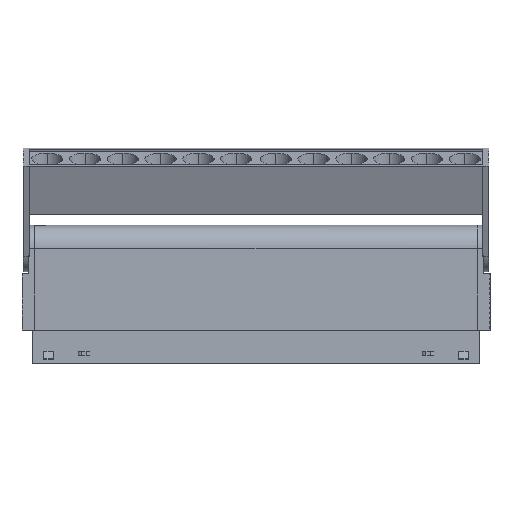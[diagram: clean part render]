
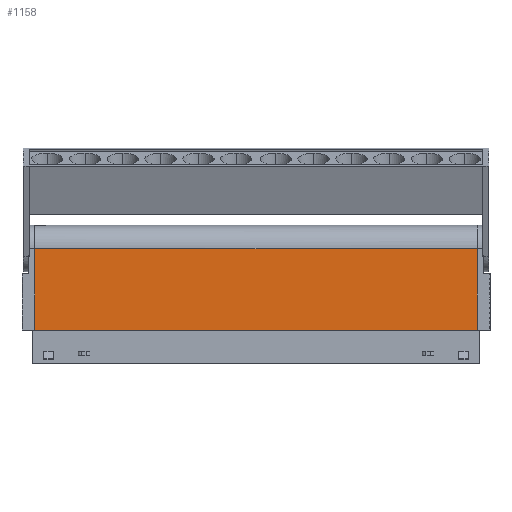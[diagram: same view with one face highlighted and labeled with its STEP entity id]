
A CAD part, left-side view. The second image highlights one B-rep face of the part: STEP entity #1158.
In plain terms, the highlighted planar face has unit normal (-1, 0, 0).
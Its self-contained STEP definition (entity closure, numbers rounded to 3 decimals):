
#1158=ADVANCED_FACE('',(#3284),#32503,.T.);
#3284=FACE_OUTER_BOUND('',#5526,.T.);
#5526=EDGE_LOOP('',(#10756,#10757,#10758,#10759));
#10756=ORIENTED_EDGE('',*,*,#19481,.T.);
#10757=ORIENTED_EDGE('',*,*,#19474,.F.);
#10758=ORIENTED_EDGE('',*,*,#19482,.T.);
#10759=ORIENTED_EDGE('',*,*,#19479,.F.);
#19474=EDGE_CURVE('',#29423,#29420,#24854,.T.);
#19479=EDGE_CURVE('',#29426,#29427,#24858,.T.);
#19481=EDGE_CURVE('',#29426,#29420,#24859,.T.);
#19482=EDGE_CURVE('',#29423,#29427,#24860,.T.);
#24854=B_SPLINE_CURVE_WITH_KNOTS('',1,(#44109,#44110),.UNSPECIFIED.,.F.,
 .F.,(2,2),(-211.,0.),.UNSPECIFIED.);
#24858=B_SPLINE_CURVE_WITH_KNOTS('',1,(#44122,#44123),.UNSPECIFIED.,.F.,
 .F.,(2,2),(0.,211.),.UNSPECIFIED.);
#24859=B_SPLINE_CURVE_WITH_KNOTS('',1,(#44129,#44130),.UNSPECIFIED.,.F.,
 .F.,(2,2),(0.,39.),.UNSPECIFIED.);
#24860=B_SPLINE_CURVE_WITH_KNOTS('',1,(#44131,#44132),.UNSPECIFIED.,.F.,
 .F.,(2,2),(-39.,0.),.UNSPECIFIED.);
#29420=VERTEX_POINT('',#44095);
#29423=VERTEX_POINT('',#44098);
#29426=VERTEX_POINT('',#44101);
#29427=VERTEX_POINT('',#44102);
#32503=PLANE('',#34666);
#34666=AXIS2_PLACEMENT_3D('',#44092,#36771,$);
#36771=DIRECTION('',(-1.,0.,0.));
#44092=CARTESIAN_POINT('',(3430.554,1340.904,3.128));
#44095=CARTESIAN_POINT('',(3430.554,1340.894,3.138));
#44098=CARTESIAN_POINT('',(3430.554,1129.894,3.138));
#44101=CARTESIAN_POINT('',(3430.554,1340.894,42.138));
#44102=CARTESIAN_POINT('',(3430.554,1129.894,42.138));
#44109=CARTESIAN_POINT('',(3430.554,1129.894,3.138));
#44110=CARTESIAN_POINT('',(3430.554,1340.894,3.138));
#44122=CARTESIAN_POINT('',(3430.554,1340.894,42.138));
#44123=CARTESIAN_POINT('',(3430.554,1129.894,42.138));
#44129=CARTESIAN_POINT('',(3430.554,1340.894,42.138));
#44130=CARTESIAN_POINT('',(3430.554,1340.894,3.138));
#44131=CARTESIAN_POINT('',(3430.554,1129.894,3.138));
#44132=CARTESIAN_POINT('',(3430.554,1129.894,42.138));
